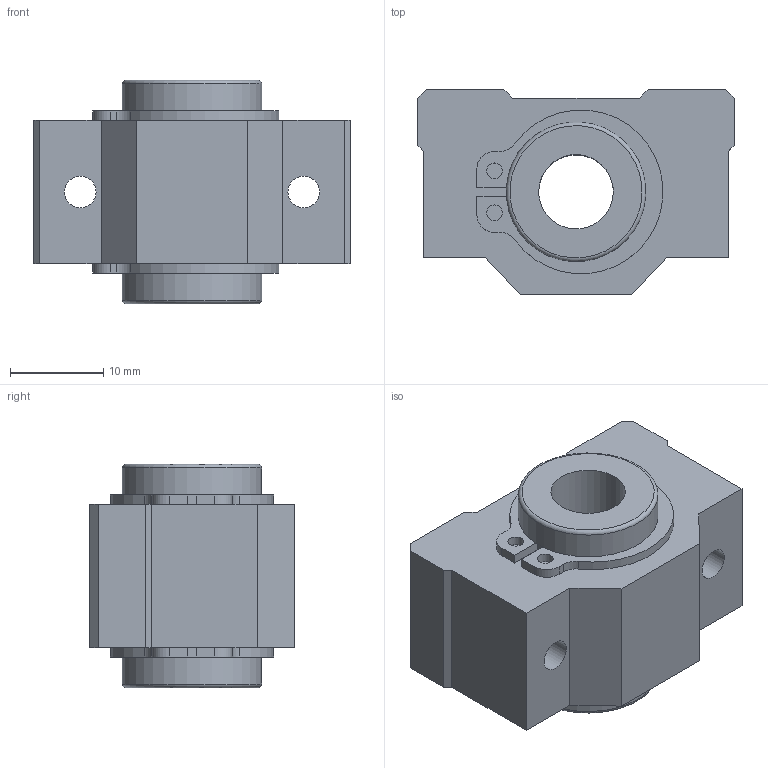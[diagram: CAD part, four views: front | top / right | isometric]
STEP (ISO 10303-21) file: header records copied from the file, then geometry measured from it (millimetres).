
FILE_DESCRIPTION(('STEP AP203'),'1');
FILE_NAME('//192.168.1.1/share/s-4 技術開発/s-4-4_CAD/s-4-4-3_見直し済み/008 修正済み/LC-C/LC-C_TOP/LC-8VCUU.step','2022-05-19T01:30:00',(' '),(' '),'Spatial InterOp 3D',' ',' ');
FILE_SCHEMA(('CONFIG_CONTROL_DESIGN'));
Length unit declared in the file: millimetre
Products named in the file (4): 1; 2; 3; 4
Bounding box: 34 x 22 x 24 mm (x, y, z)
Volume: 10085.4 mm3; surface area: 6311.8 mm2
Topology: 4 solids, 4 shells, 71 faces, 179 edges, 120 vertices
Faces by surface type: plane 42, cylinder 27, torus 2
Full cylindrical faces by diameter (mm): 1.7 x4, 3.4 x4, 8 x1, 14.3 x2, 15 x4
Entity records: 2212 total; most frequent: DIRECTION 360, CARTESIAN_POINT 345, ORIENTED_EDGE 312, EDGE_CURVE 156, AXIS2_PLACEMENT_3D 129, VERTEX_POINT 114, EDGE_LOOP 108, LINE 102
